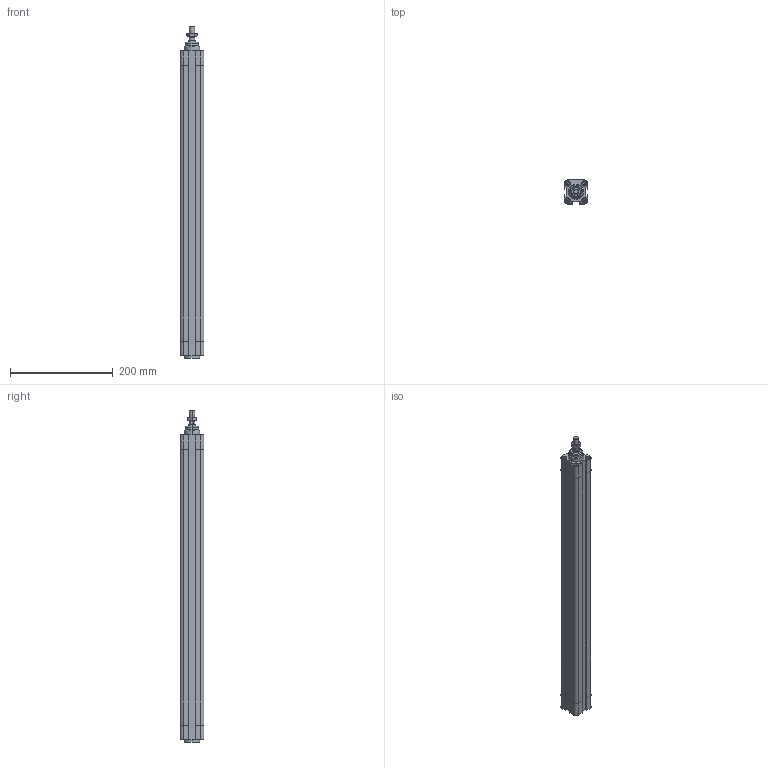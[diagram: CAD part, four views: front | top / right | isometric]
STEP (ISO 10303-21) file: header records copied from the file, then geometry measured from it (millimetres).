
FILE_DESCRIPTION((''),'2;1');
FILE_NAME('F:\Lib-3d\1380\CIL\1380_32_0500_01.stp','2004-01-07T16:01:03',('maffial1'),(''),'Autodesk Inventor 8','Autodesk Inventor 8','');
FILE_SCHEMA(('AUTOMOTIVE_DESIGN { 1 0 10303 214 1 1 1 1 }'));
Length unit declared in the file: millimetre
Products named in the file (4): 1380_32_0500_01; CPP01_32_500; CPP02_32_500; 1320_32_18F
Assembly tree (3 placements, depth 2):
  1380_32_0500_01
    CPP01_32_500
    CPP02_32_500
    1320_32_18F
Bounding box: 46 x 46 x 646 mm (x, y, z)
Volume: 1117881.5 mm3; surface area: 184046.7 mm2
Topology: 3 solids, 3 shells, 244 faces, 570 edges, 356 vertices
Faces by surface type: plane 83, bspline 67, cylinder 58, cone 34, torus 2
Entity records: 7668 total; most frequent: CARTESIAN_POINT 2166, DIRECTION 1136, ORIENTED_EDGE 1108, EDGE_CURVE 554, AXIS2_PLACEMENT_3D 422, VERTEX_POINT 356, VECTOR 292, LINE 292
